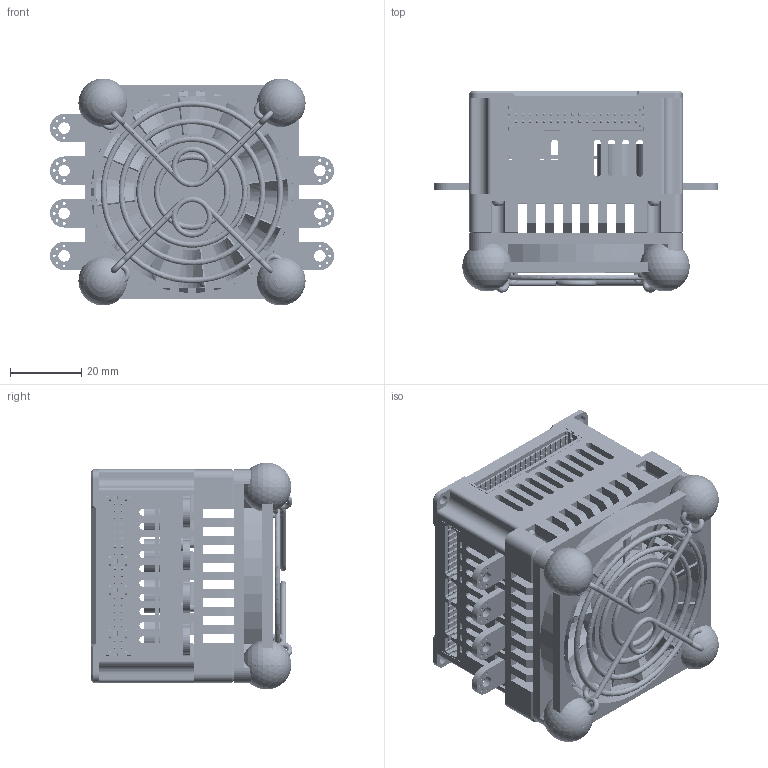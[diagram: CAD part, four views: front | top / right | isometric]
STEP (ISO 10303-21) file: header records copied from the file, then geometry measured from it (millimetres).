
FILE_DESCRIPTION((''),'2;1');
FILE_NAME('400SHIGHLOADWITHFAN','2024-03-18T17:05:11',('Cyclone_Aero15X'),(''),'CREO PARAMETRIC BY PTC INC, 2019080','CREO PARAMETRIC BY PTC INC, 2019080','');
FILE_SCHEMA(('CONFIG_CONTROL_DESIGN'));
Products named in the file (1): 400SHIGHLOADWITHFAN
Bounding box: 80 x 56.6 x 63.9 mm (x, y, z)
Surface area: 122280.5 mm2 (no closed solid volume)
Topology: 0 solids, 0 shells, 3998 faces, 20301 edges, 20233 vertices
Faces by surface type: plane 2989, cylinder 805, bspline 84, torus 60, cone 52, sphere 8
Entity records: 319384 total; most frequent: CARTESIAN_POINT 79532, DIRECTION 46158, TRIMMED_CURVE 36220, VECTOR 34110, LINE 34110, DEFINITIONAL_REPRESENTATION 20157, PCURVE 20157, COMPOSITE_CURVE_SEGMENT 20157
